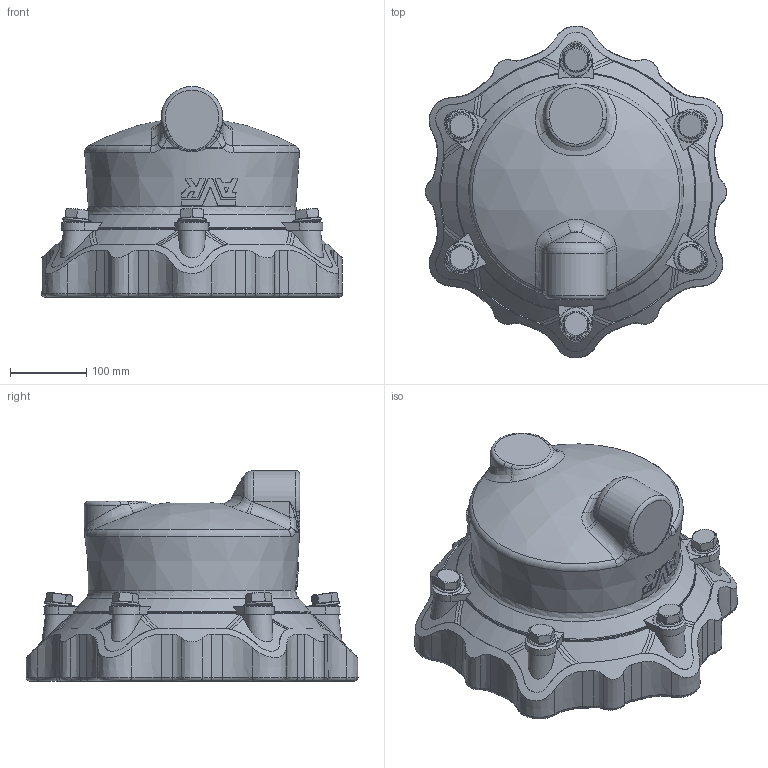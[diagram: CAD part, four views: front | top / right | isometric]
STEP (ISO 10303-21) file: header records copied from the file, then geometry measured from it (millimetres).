
FILE_DESCRIPTION (( 'STEP AP203' ), '1' );
FILE_NAME ('O_634_00_DN225_224-257mm_AA0_step.step', '2016-05-10T10:44:15', ( 'Windows User' ), ( 'AVK' ), 'SwSTEP 2.0', 'SolidWorks 2012', '' );
FILE_SCHEMA (( 'CONFIG_CONTROL_DESIGN' ));
Length unit declared in the file: millimetre
Products named in the file (1): O_634_00_DN225_224-257mm_AA0_step
Bounding box: 395.97 x 436.58 x 277.51 mm (x, y, z)
Volume: 8264057.7 mm3; surface area: 622540.1 mm2
Topology: 1 solids, 1 shells, 659 faces, 1707 edges, 1052 vertices
Faces by surface type: plane 189, bspline 172, cone 112, torus 95, cylinder 81, sphere 10
Full cylindrical faces by diameter (mm): 30 x6, 257 x3, 264.68 x1
Entity records: 31197 total; most frequent: CARTESIAN_POINT 17675, ORIENTED_EDGE 3320, DIRECTION 2110, EDGE_CURVE 1660, VERTEX_POINT 1041, AXIS2_PLACEMENT_3D 823, EDGE_LOOP 695, FACE_OUTER_BOUND 675
